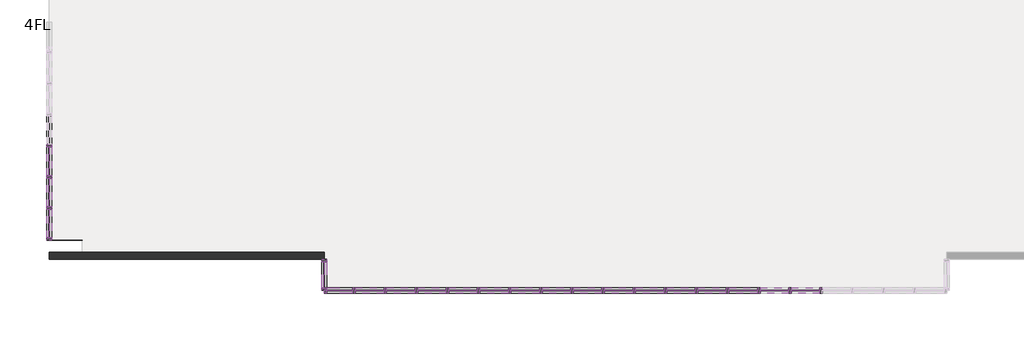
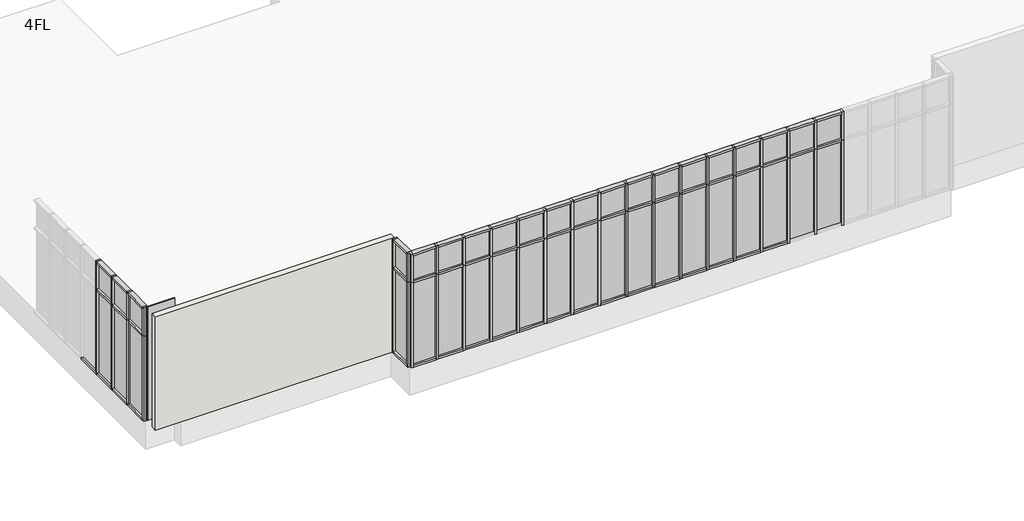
# One storey, part 1 of 4: 105 members, 42 plates, 1 wall.
"""IFC4 building model written with IfcOpenShell, lengths in millimetres."""

from ifc_helpers import new_model, si_unit, frame, origin, place, context, project, spatial, polyline, outline, extrude, transform, mapped, element, save
from components import member_70x150_cdd4dcf9, member_70x150_9a135ce4, member_70x150_66cf63de, member_70x150_26475b18, member_70x150_ad4265bc, member_70x150_e0eddb57, member_70x150_1b280ac3, member_70x150_76429c73, plate_d1366ea1, plate_ab860a3c, plate_28587fd3, plate_4b01b467, plate_396bcf3c, plate_83f08a3e

model = new_model("IFC4")

# Units and contexts
model_context = context("Model", 3, world=origin())
ifc_project = project(units=[si_unit("LENGTHUNIT", "METRE", prefix="MILLI")], contexts=[model_context])

# Site, building, storey
site = spatial("IfcSite", under=ifc_project)
building = spatial("IfcBuilding", under=site)
storey = spatial("IfcBuildingStorey", under=building, Name="4FL", Elevation=12600.0)

# Members
placement = place(None, origin())
member_70x150_shape = member_70x150_cdd4dcf9(model_context)
element("IfcMember", 1, ObjectType="長方形のマリオン : 70x150", at=placement, inside=storey, context=model_context, shape_type="MappedRepresentation", body=[
    mapped(member_70x150_shape, transform((-19630.9784025, -4550.3131013, 12600.0), x_axis=(-1.0, 0.0, 0.0), y_axis=(0.0, 1.0, 0.0), z_axis=(0.0, 0.0, -1.0))),
])
element("IfcMember", 2, ObjectType="長方形のマリオン : 70x150", at=placement, inside=storey, context=model_context, shape_type="MappedRepresentation", body=[
    mapped(member_70x150_shape, transform((-16030.9784025, -4550.3131013, 12600.0), x_axis=(-1.0, 0.0, 0.0), y_axis=(0.0, 1.0, 0.0), z_axis=(0.0, 0.0, -1.0))),
])
element("IfcMember", 3, ObjectType="長方形のマリオン : 70x150", at=placement, inside=storey, context=model_context, shape_type="MappedRepresentation", body=[
    mapped(member_70x150_shape, transform((-20530.9784025, -4550.3131013, 12600.0), x_axis=(-1.0, 0.0, 0.0), y_axis=(0.0, 1.0, 0.0), z_axis=(0.0, 0.0, -1.0))),
])
element("IfcMember", 4, ObjectType="長方形のマリオン : 70x150", at=placement, inside=storey, context=model_context, shape_type="MappedRepresentation", body=[
    mapped(member_70x150_shape, transform((-17830.9784025, -4550.3131013, 12600.0), x_axis=(-1.0, 0.0, 0.0), y_axis=(0.0, 1.0, 0.0), z_axis=(0.0, 0.0, -1.0))),
])
element("IfcMember", 5, ObjectType="長方形のマリオン : 70x150", at=placement, inside=storey, context=model_context, shape_type="MappedRepresentation", body=[
    mapped(member_70x150_shape, transform((-14230.9784025, -4550.3131013, 12600.0), x_axis=(-1.0, 0.0, 0.0), y_axis=(0.0, 1.0, 0.0), z_axis=(0.0, 0.0, -1.0))),
])
element("IfcMember", 6, ObjectType="長方形のマリオン : 70x150", at=placement, inside=storey, context=model_context, shape_type="MappedRepresentation", body=[
    mapped(member_70x150_shape, transform((-18730.9784025, -4550.3131013, 12600.0), x_axis=(-1.0, 0.0, 0.0), y_axis=(0.0, 1.0, 0.0), z_axis=(0.0, 0.0, -1.0))),
])
element("IfcMember", 7, ObjectType="長方形のマリオン : 70x150", at=placement, inside=storey, context=model_context, shape_type="MappedRepresentation", body=[
    mapped(member_70x150_shape, transform((-15130.9784025, -4550.3131013, 12600.0), x_axis=(-1.0, 0.0, 0.0), y_axis=(0.0, 1.0, 0.0), z_axis=(0.0, 0.0, -1.0))),
])
element("IfcMember", 8, ObjectType="長方形のマリオン : 70x150", at=placement, inside=storey, context=model_context, shape_type="MappedRepresentation", body=[
    mapped(member_70x150_shape, transform((-13330.9784025, -4550.3131013, 12600.0), x_axis=(-1.0, 0.0, 0.0), y_axis=(0.0, 1.0, 0.0), z_axis=(0.0, 0.0, -1.0))),
])
element("IfcMember", 9, ObjectType="長方形のマリオン : 70x150", at=placement, inside=storey, context=model_context, shape_type="MappedRepresentation", body=[
    mapped(member_70x150_shape, transform((-16930.9784025, -4550.3131013, 12600.0), x_axis=(-1.0, 0.0, 0.0), y_axis=(0.0, 1.0, 0.0), z_axis=(0.0, 0.0, -1.0))),
])
element("IfcMember", 10, ObjectType="長方形のマリオン : 70x150", at=placement, inside=storey, context=model_context, shape_type="MappedRepresentation", body=[
    mapped(member_70x150_shape, transform((-12430.9784025, -4550.3131013, 12600.0), x_axis=(-1.0, 0.0, 0.0), y_axis=(0.0, 1.0, 0.0), z_axis=(0.0, 0.0, -1.0))),
])
element("IfcMember", 11, ObjectType="長方形のマリオン : 70x150", at=placement, inside=storey, context=model_context, shape_type="MappedRepresentation", body=[
    mapped(member_70x150_shape, transform((-10630.9784025, -4550.3131013, 12600.0), x_axis=(-1.0, 0.0, 0.0), y_axis=(0.0, 1.0, 0.0), z_axis=(0.0, 0.0, -1.0))),
])
element("IfcMember", 12, ObjectType="長方形のマリオン : 70x150", at=placement, inside=storey, context=model_context, shape_type="MappedRepresentation", body=[
    mapped(member_70x150_shape, transform((-7930.9784025, -4550.3131013, 12600.0), x_axis=(-1.0, 0.0, 0.0), y_axis=(0.0, 1.0, 0.0), z_axis=(0.0, 0.0, -1.0))),
])
element("IfcMember", 13, ObjectType="長方形のマリオン : 70x150", at=placement, inside=storey, context=model_context, shape_type="MappedRepresentation", body=[
    mapped(member_70x150_shape, transform((-9730.9784025, -4550.3131013, 12600.0), x_axis=(-1.0, 0.0, 0.0), y_axis=(0.0, 1.0, 0.0), z_axis=(0.0, 0.0, -1.0))),
])
element("IfcMember", 14, ObjectType="長方形のマリオン : 70x150", at=placement, inside=storey, context=model_context, shape_type="MappedRepresentation", body=[
    mapped(member_70x150_shape, transform((-11530.9784025, -4550.3131013, 12600.0), x_axis=(-1.0, 0.0, 0.0), y_axis=(0.0, 1.0, 0.0), z_axis=(0.0, 0.0, -1.0))),
])
element("IfcMember", 15, ObjectType="長方形のマリオン : 70x150", at=placement, inside=storey, context=model_context, shape_type="MappedRepresentation", body=[
    mapped(member_70x150_shape, transform((-8830.9784025, -4550.3131013, 12600.0), x_axis=(-1.0, 0.0, 0.0), y_axis=(0.0, 1.0, 0.0), z_axis=(0.0, 0.0, -1.0))),
])
element("IfcMember", 16, ObjectType="長方形のマリオン : 70x150", at=placement, inside=storey, context=model_context, shape_type="MappedRepresentation", body=[
    mapped(member_70x150_shape, transform((-7030.9784025, -4550.3131013, 12600.0), x_axis=(-1.0, 0.0, 0.0), y_axis=(0.0, 1.0, 0.0), z_axis=(0.0, 0.0, -1.0))),
])
element("IfcMember", 17, ObjectType="長方形のマリオン : 70x150", at=placement, inside=storey, context=model_context, shape_type="MappedRepresentation", body=[
    mapped(member_70x150_shape, transform((-29345.9784025, -365.3131013, 12600.0), x_axis=(0.0, 1.0, 0.0), y_axis=(1.0, 0.0, 0.0), z_axis=(0.0, 0.0, -1.0))),
])
element("IfcMember", 18, ObjectType="長方形のマリオン : 70x150", at=placement, inside=storey, context=model_context, shape_type="MappedRepresentation", body=[
    mapped(member_70x150_shape, transform((-29345.9784025, -2165.3131013, 12600.0), x_axis=(0.0, 1.0, 0.0), y_axis=(1.0, 0.0, 0.0), z_axis=(0.0, 0.0, -1.0))),
])
element("IfcMember", 19, ObjectType="長方形のマリオン : 70x150", at=placement, inside=storey, context=model_context, shape_type="MappedRepresentation", body=[
    mapped(member_70x150_shape, transform((-29345.9784025, -1265.3131013, 12600.0), x_axis=(0.0, 1.0, 0.0), y_axis=(1.0, 0.0, 0.0), z_axis=(0.0, 0.0, -1.0))),
])
member_70x150_2_shape = member_70x150_9a135ce4(model_context)
element("IfcMember", 20, ObjectType="長方形のマリオン : 70x150", at=placement, inside=storey, context=model_context, shape_type="MappedRepresentation", body=[
    mapped(member_70x150_2_shape, transform((-21325.9784025, -4550.3131013, 16600.0), x_axis=(0.0, 0.0, 1.0), y_axis=(0.0, 1.0, 0.0), z_axis=(-1.0, 0.0, 0.0))),
])
element("IfcMember", 21, ObjectType="長方形のマリオン : 70x150", at=placement, inside=storey, context=model_context, shape_type="MappedRepresentation", body=[
    mapped(member_70x150_2_shape, transform((-21395.9784025, -3720.3131013, 16600.0), x_axis=(0.0, 0.0, 1.0), y_axis=(1.0, 0.0, 0.0), z_axis=(0.0, 1.0, 0.0))),
])
member_70x150_3_shape = member_70x150_66cf63de(model_context)
element("IfcMember", 22, ObjectType="長方形のマリオン : 70x150", at=placement, inside=storey, context=model_context, shape_type="MappedRepresentation", body=[
    mapped(member_70x150_3_shape, transform((-19665.9784025, -4550.3131013, 12600.0), x_axis=(0.0, 0.0, -1.0), y_axis=(0.0, 1.0, 0.0), z_axis=(1.0, 0.0, 0.0))),
])
element("IfcMember", 23, ObjectType="長方形のマリオン : 70x150", at=placement, inside=storey, context=model_context, shape_type="MappedRepresentation", body=[
    mapped(member_70x150_3_shape, transform((-18765.9784025, -4550.3131013, 12600.0), x_axis=(0.0, 0.0, -1.0), y_axis=(0.0, 1.0, 0.0), z_axis=(1.0, 0.0, 0.0))),
])
element("IfcMember", 24, ObjectType="長方形のマリオン : 70x150", at=placement, inside=storey, context=model_context, shape_type="MappedRepresentation", body=[
    mapped(member_70x150_3_shape, transform((-17865.9784025, -4550.3131013, 12600.0), x_axis=(0.0, 0.0, -1.0), y_axis=(0.0, 1.0, 0.0), z_axis=(1.0, 0.0, 0.0))),
])
element("IfcMember", 25, ObjectType="長方形のマリオン : 70x150", at=placement, inside=storey, context=model_context, shape_type="MappedRepresentation", body=[
    mapped(member_70x150_3_shape, transform((-16965.9784025, -4550.3131013, 12600.0), x_axis=(0.0, 0.0, -1.0), y_axis=(0.0, 1.0, 0.0), z_axis=(1.0, 0.0, 0.0))),
])
element("IfcMember", 26, ObjectType="長方形のマリオン : 70x150", at=placement, inside=storey, context=model_context, shape_type="MappedRepresentation", body=[
    mapped(member_70x150_3_shape, transform((-16065.9784025, -4550.3131013, 12600.0), x_axis=(0.0, 0.0, -1.0), y_axis=(0.0, 1.0, 0.0), z_axis=(1.0, 0.0, 0.0))),
])
element("IfcMember", 27, ObjectType="長方形のマリオン : 70x150", at=placement, inside=storey, context=model_context, shape_type="MappedRepresentation", body=[
    mapped(member_70x150_3_shape, transform((-11565.9784025, -4550.3131013, 12600.0), x_axis=(0.0, 0.0, -1.0), y_axis=(0.0, 1.0, 0.0), z_axis=(1.0, 0.0, 0.0))),
])
element("IfcMember", 28, ObjectType="長方形のマリオン : 70x150", at=placement, inside=storey, context=model_context, shape_type="MappedRepresentation", body=[
    mapped(member_70x150_3_shape, transform((-9765.9784025, -4550.3131013, 12600.0), x_axis=(0.0, 0.0, -1.0), y_axis=(0.0, 1.0, 0.0), z_axis=(1.0, 0.0, 0.0))),
])
element("IfcMember", 29, ObjectType="長方形のマリオン : 70x150", at=placement, inside=storey, context=model_context, shape_type="MappedRepresentation", body=[
    mapped(member_70x150_3_shape, transform((-13365.9784025, -4550.3131013, 12600.0), x_axis=(0.0, 0.0, -1.0), y_axis=(0.0, 1.0, 0.0), z_axis=(1.0, 0.0, 0.0))),
])
element("IfcMember", 30, ObjectType="長方形のマリオン : 70x150", at=placement, inside=storey, context=model_context, shape_type="MappedRepresentation", body=[
    mapped(member_70x150_3_shape, transform((-12465.9784025, -4550.3131013, 12600.0), x_axis=(0.0, 0.0, -1.0), y_axis=(0.0, 1.0, 0.0), z_axis=(1.0, 0.0, 0.0))),
])
element("IfcMember", 31, ObjectType="長方形のマリオン : 70x150", at=placement, inside=storey, context=model_context, shape_type="MappedRepresentation", body=[
    mapped(member_70x150_3_shape, transform((-14265.9784025, -4550.3131013, 12600.0), x_axis=(0.0, 0.0, -1.0), y_axis=(0.0, 1.0, 0.0), z_axis=(1.0, 0.0, 0.0))),
])
element("IfcMember", 32, ObjectType="長方形のマリオン : 70x150", at=placement, inside=storey, context=model_context, shape_type="MappedRepresentation", body=[
    mapped(member_70x150_3_shape, transform((-10665.9784025, -4550.3131013, 12600.0), x_axis=(0.0, 0.0, -1.0), y_axis=(0.0, 1.0, 0.0), z_axis=(1.0, 0.0, 0.0))),
])
element("IfcMember", 33, ObjectType="長方形のマリオン : 70x150", at=placement, inside=storey, context=model_context, shape_type="MappedRepresentation", body=[
    mapped(member_70x150_3_shape, transform((-15165.9784025, -4550.3131013, 12600.0), x_axis=(0.0, 0.0, -1.0), y_axis=(0.0, 1.0, 0.0), z_axis=(1.0, 0.0, 0.0))),
])
element("IfcMember", 34, ObjectType="長方形のマリオン : 70x150", at=placement, inside=storey, context=model_context, shape_type="MappedRepresentation", body=[
    mapped(member_70x150_3_shape, transform((-8865.9784025, -4550.3131013, 12600.0), x_axis=(0.0, 0.0, -1.0), y_axis=(0.0, 1.0, 0.0), z_axis=(1.0, 0.0, 0.0))),
])
element("IfcMember", 35, ObjectType="長方形のマリオン : 70x150", at=placement, inside=storey, context=model_context, shape_type="MappedRepresentation", body=[
    mapped(member_70x150_3_shape, transform((-29345.9784025, -330.3131013, 12600.0), x_axis=(0.0, 0.0, -1.0), y_axis=(1.0, 0.0, 0.0), z_axis=(0.0, -1.0, 0.0))),
])
element("IfcMember", 36, ObjectType="長方形のマリオン : 70x150", at=placement, inside=storey, context=model_context, shape_type="MappedRepresentation", body=[
    mapped(member_70x150_3_shape, transform((-29345.9784025, -1230.3131013, 12600.0), x_axis=(0.0, 0.0, -1.0), y_axis=(1.0, 0.0, 0.0), z_axis=(0.0, -1.0, 0.0))),
])
element("IfcMember", 37, ObjectType="長方形のマリオン : 70x150", at=placement, inside=storey, context=model_context, shape_type="MappedRepresentation", body=[
    mapped(member_70x150_3_shape, transform((-29345.9784025, -2130.3131013, 12600.0), x_axis=(0.0, 0.0, -1.0), y_axis=(1.0, 0.0, 0.0), z_axis=(0.0, -1.0, 0.0))),
])
element("IfcMember", 38, ObjectType="長方形のマリオン : 70x150", at=placement, inside=storey, context=model_context, shape_type="MappedRepresentation", body=[
    mapped(member_70x150_3_shape, transform((-29345.9784025, -3030.3131013, 12600.0), x_axis=(0.0, 0.0, -1.0), y_axis=(1.0, 0.0, 0.0), z_axis=(0.0, -1.0, 0.0))),
])
element("IfcMember", 39, ObjectType="長方形のマリオン : 70x150", at=placement, inside=storey, context=model_context, shape_type="MappedRepresentation", body=[
    mapped(member_70x150_3_shape, transform((-19595.9784025, -4550.3131013, 16600.0), x_axis=(0.0, 0.0, 1.0), y_axis=(0.0, 1.0, 0.0), z_axis=(-1.0, 0.0, 0.0))),
])
element("IfcMember", 40, ObjectType="長方形のマリオン : 70x150", at=placement, inside=storey, context=model_context, shape_type="MappedRepresentation", body=[
    mapped(member_70x150_3_shape, transform((-18695.9784025, -4550.3131013, 16600.0), x_axis=(0.0, 0.0, 1.0), y_axis=(0.0, 1.0, 0.0), z_axis=(-1.0, 0.0, 0.0))),
])
element("IfcMember", 41, ObjectType="長方形のマリオン : 70x150", at=placement, inside=storey, context=model_context, shape_type="MappedRepresentation", body=[
    mapped(member_70x150_3_shape, transform((-17795.9784025, -4550.3131013, 16600.0), x_axis=(0.0, 0.0, 1.0), y_axis=(0.0, 1.0, 0.0), z_axis=(-1.0, 0.0, 0.0))),
])
element("IfcMember", 42, ObjectType="長方形のマリオン : 70x150", at=placement, inside=storey, context=model_context, shape_type="MappedRepresentation", body=[
    mapped(member_70x150_3_shape, transform((-16895.9784025, -4550.3131013, 16600.0), x_axis=(0.0, 0.0, 1.0), y_axis=(0.0, 1.0, 0.0), z_axis=(-1.0, 0.0, 0.0))),
])
element("IfcMember", 43, ObjectType="長方形のマリオン : 70x150", at=placement, inside=storey, context=model_context, shape_type="MappedRepresentation", body=[
    mapped(member_70x150_3_shape, transform((-15995.9784025, -4550.3131013, 16600.0), x_axis=(0.0, 0.0, 1.0), y_axis=(0.0, 1.0, 0.0), z_axis=(-1.0, 0.0, 0.0))),
])
element("IfcMember", 44, ObjectType="長方形のマリオン : 70x150", at=placement, inside=storey, context=model_context, shape_type="MappedRepresentation", body=[
    mapped(member_70x150_3_shape, transform((-15095.9784025, -4550.3131013, 16600.0), x_axis=(0.0, 0.0, 1.0), y_axis=(0.0, 1.0, 0.0), z_axis=(-1.0, 0.0, 0.0))),
])
element("IfcMember", 45, ObjectType="長方形のマリオン : 70x150", at=placement, inside=storey, context=model_context, shape_type="MappedRepresentation", body=[
    mapped(member_70x150_3_shape, transform((-14195.9784025, -4550.3131013, 16600.0), x_axis=(0.0, 0.0, 1.0), y_axis=(0.0, 1.0, 0.0), z_axis=(-1.0, 0.0, 0.0))),
])
element("IfcMember", 46, ObjectType="長方形のマリオン : 70x150", at=placement, inside=storey, context=model_context, shape_type="MappedRepresentation", body=[
    mapped(member_70x150_3_shape, transform((-13295.9784025, -4550.3131013, 16600.0), x_axis=(0.0, 0.0, 1.0), y_axis=(0.0, 1.0, 0.0), z_axis=(-1.0, 0.0, 0.0))),
])
element("IfcMember", 47, ObjectType="長方形のマリオン : 70x150", at=placement, inside=storey, context=model_context, shape_type="MappedRepresentation", body=[
    mapped(member_70x150_3_shape, transform((-12395.9784025, -4550.3131013, 16600.0), x_axis=(0.0, 0.0, 1.0), y_axis=(0.0, 1.0, 0.0), z_axis=(-1.0, 0.0, 0.0))),
])
element("IfcMember", 48, ObjectType="長方形のマリオン : 70x150", at=placement, inside=storey, context=model_context, shape_type="MappedRepresentation", body=[
    mapped(member_70x150_3_shape, transform((-11495.9784025, -4550.3131013, 16600.0), x_axis=(0.0, 0.0, 1.0), y_axis=(0.0, 1.0, 0.0), z_axis=(-1.0, 0.0, 0.0))),
])
element("IfcMember", 49, ObjectType="長方形のマリオン : 70x150", at=placement, inside=storey, context=model_context, shape_type="MappedRepresentation", body=[
    mapped(member_70x150_3_shape, transform((-10595.9784025, -4550.3131013, 16600.0), x_axis=(0.0, 0.0, 1.0), y_axis=(0.0, 1.0, 0.0), z_axis=(-1.0, 0.0, 0.0))),
])
element("IfcMember", 50, ObjectType="長方形のマリオン : 70x150", at=placement, inside=storey, context=model_context, shape_type="MappedRepresentation", body=[
    mapped(member_70x150_3_shape, transform((-9695.9784025, -4550.3131013, 16600.0), x_axis=(0.0, 0.0, 1.0), y_axis=(0.0, 1.0, 0.0), z_axis=(-1.0, 0.0, 0.0))),
])
element("IfcMember", 51, ObjectType="長方形のマリオン : 70x150", at=placement, inside=storey, context=model_context, shape_type="MappedRepresentation", body=[
    mapped(member_70x150_3_shape, transform((-8795.9784025, -4550.3131013, 16600.0), x_axis=(0.0, 0.0, 1.0), y_axis=(0.0, 1.0, 0.0), z_axis=(-1.0, 0.0, 0.0))),
])
element("IfcMember", 52, ObjectType="長方形のマリオン : 70x150", at=placement, inside=storey, context=model_context, shape_type="MappedRepresentation", body=[
    mapped(member_70x150_3_shape, transform((-7895.9784025, -4550.3131013, 16600.0), x_axis=(0.0, 0.0, 1.0), y_axis=(0.0, 1.0, 0.0), z_axis=(-1.0, 0.0, 0.0))),
])
element("IfcMember", 53, ObjectType="長方形のマリオン : 70x150", at=placement, inside=storey, context=model_context, shape_type="MappedRepresentation", body=[
    mapped(member_70x150_3_shape, transform((-20495.9784025, -4550.3131013, 16600.0), x_axis=(0.0, 0.0, 1.0), y_axis=(0.0, 1.0, 0.0), z_axis=(-1.0, 0.0, 0.0))),
])
element("IfcMember", 54, ObjectType="長方形のマリオン : 70x150", at=placement, inside=storey, context=model_context, shape_type="MappedRepresentation", body=[
    mapped(member_70x150_3_shape, transform((-29345.9784025, -400.3131013, 16600.0), x_axis=(0.0, 0.0, 1.0), y_axis=(1.0, 0.0, 0.0), z_axis=(0.0, 1.0, 0.0))),
])
element("IfcMember", 55, ObjectType="長方形のマリオン : 70x150", at=placement, inside=storey, context=model_context, shape_type="MappedRepresentation", body=[
    mapped(member_70x150_3_shape, transform((-29345.9784025, -1300.3131013, 16600.0), x_axis=(0.0, 0.0, 1.0), y_axis=(1.0, 0.0, 0.0), z_axis=(0.0, 1.0, 0.0))),
])
element("IfcMember", 56, ObjectType="長方形のマリオン : 70x150", at=placement, inside=storey, context=model_context, shape_type="MappedRepresentation", body=[
    mapped(member_70x150_3_shape, transform((-29345.9784025, -2200.3131013, 16600.0), x_axis=(0.0, 0.0, 1.0), y_axis=(1.0, 0.0, 0.0), z_axis=(0.0, 1.0, 0.0))),
])
element("IfcMember", 57, ObjectType="長方形のマリオン : 70x150", at=placement, inside=storey, context=model_context, shape_type="MappedRepresentation", body=[
    mapped(member_70x150_2_shape, transform((-20565.9784025, -4550.3131013, 12600.0), x_axis=(0.0, 0.0, -1.0), y_axis=(0.0, 1.0, 0.0), z_axis=(1.0, 0.0, 0.0))),
])
element("IfcMember", 58, ObjectType="長方形のマリオン : 70x150", at=placement, inside=storey, context=model_context, shape_type="MappedRepresentation", body=[
    mapped(member_70x150_2_shape, transform((-21395.9784025, -4480.3131013, 12600.0), x_axis=(0.0, 0.0, -1.0), y_axis=(1.0, 0.0, 0.0), z_axis=(0.0, -1.0, 0.0))),
])
member_70x150_4_shape = member_70x150_26475b18(model_context)
element("IfcMember", 59, ObjectType="長方形のマリオン : 70x150", at=placement, inside=storey, context=model_context, shape_type="MappedRepresentation", body=[
    mapped(member_70x150_4_shape, transform((-20530.9784025, -4550.3131013, 15600.0), x_axis=(-1.0, 0.0, 0.0), y_axis=(0.0, 1.0, 0.0), z_axis=(0.0, 0.0, -1.0))),
])
element("IfcMember", 60, ObjectType="長方形のマリオン : 70x150", at=placement, inside=storey, context=model_context, shape_type="MappedRepresentation", body=[
    mapped(member_70x150_4_shape, transform((-19630.9784025, -4550.3131013, 15600.0), x_axis=(-1.0, 0.0, 0.0), y_axis=(0.0, 1.0, 0.0), z_axis=(0.0, 0.0, -1.0))),
])
element("IfcMember", 61, ObjectType="長方形のマリオン : 70x150", at=placement, inside=storey, context=model_context, shape_type="MappedRepresentation", body=[
    mapped(member_70x150_4_shape, transform((-18730.9784025, -4550.3131013, 15600.0), x_axis=(-1.0, 0.0, 0.0), y_axis=(0.0, 1.0, 0.0), z_axis=(0.0, 0.0, -1.0))),
])
element("IfcMember", 62, ObjectType="長方形のマリオン : 70x150", at=placement, inside=storey, context=model_context, shape_type="MappedRepresentation", body=[
    mapped(member_70x150_4_shape, transform((-17830.9784025, -4550.3131013, 15600.0), x_axis=(-1.0, 0.0, 0.0), y_axis=(0.0, 1.0, 0.0), z_axis=(0.0, 0.0, -1.0))),
])
element("IfcMember", 63, ObjectType="長方形のマリオン : 70x150", at=placement, inside=storey, context=model_context, shape_type="MappedRepresentation", body=[
    mapped(member_70x150_4_shape, transform((-16930.9784025, -4550.3131013, 15600.0), x_axis=(-1.0, 0.0, 0.0), y_axis=(0.0, 1.0, 0.0), z_axis=(0.0, 0.0, -1.0))),
])
element("IfcMember", 64, ObjectType="長方形のマリオン : 70x150", at=placement, inside=storey, context=model_context, shape_type="MappedRepresentation", body=[
    mapped(member_70x150_4_shape, transform((-16030.9784025, -4550.3131013, 15600.0), x_axis=(-1.0, 0.0, 0.0), y_axis=(0.0, 1.0, 0.0), z_axis=(0.0, 0.0, -1.0))),
])
element("IfcMember", 65, ObjectType="長方形のマリオン : 70x150", at=placement, inside=storey, context=model_context, shape_type="MappedRepresentation", body=[
    mapped(member_70x150_4_shape, transform((-15130.9784025, -4550.3131013, 15600.0), x_axis=(-1.0, 0.0, 0.0), y_axis=(0.0, 1.0, 0.0), z_axis=(0.0, 0.0, -1.0))),
])
element("IfcMember", 66, ObjectType="長方形のマリオン : 70x150", at=placement, inside=storey, context=model_context, shape_type="MappedRepresentation", body=[
    mapped(member_70x150_4_shape, transform((-14230.9784025, -4550.3131013, 15600.0), x_axis=(-1.0, 0.0, 0.0), y_axis=(0.0, 1.0, 0.0), z_axis=(0.0, 0.0, -1.0))),
])
element("IfcMember", 67, ObjectType="長方形のマリオン : 70x150", at=placement, inside=storey, context=model_context, shape_type="MappedRepresentation", body=[
    mapped(member_70x150_4_shape, transform((-13330.9784025, -4550.3131013, 15600.0), x_axis=(-1.0, 0.0, 0.0), y_axis=(0.0, 1.0, 0.0), z_axis=(0.0, 0.0, -1.0))),
])
element("IfcMember", 68, ObjectType="長方形のマリオン : 70x150", at=placement, inside=storey, context=model_context, shape_type="MappedRepresentation", body=[
    mapped(member_70x150_4_shape, transform((-12430.9784025, -4550.3131013, 15600.0), x_axis=(-1.0, 0.0, 0.0), y_axis=(0.0, 1.0, 0.0), z_axis=(0.0, 0.0, -1.0))),
])
element("IfcMember", 69, ObjectType="長方形のマリオン : 70x150", at=placement, inside=storey, context=model_context, shape_type="MappedRepresentation", body=[
    mapped(member_70x150_4_shape, transform((-11530.9784025, -4550.3131013, 15600.0), x_axis=(-1.0, 0.0, 0.0), y_axis=(0.0, 1.0, 0.0), z_axis=(0.0, 0.0, -1.0))),
])
element("IfcMember", 70, ObjectType="長方形のマリオン : 70x150", at=placement, inside=storey, context=model_context, shape_type="MappedRepresentation", body=[
    mapped(member_70x150_4_shape, transform((-10630.9784025, -4550.3131013, 15600.0), x_axis=(-1.0, 0.0, 0.0), y_axis=(0.0, 1.0, 0.0), z_axis=(0.0, 0.0, -1.0))),
])
element("IfcMember", 71, ObjectType="長方形のマリオン : 70x150", at=placement, inside=storey, context=model_context, shape_type="MappedRepresentation", body=[
    mapped(member_70x150_4_shape, transform((-9730.9784025, -4550.3131013, 15600.0), x_axis=(-1.0, 0.0, 0.0), y_axis=(0.0, 1.0, 0.0), z_axis=(0.0, 0.0, -1.0))),
])
element("IfcMember", 72, ObjectType="長方形のマリオン : 70x150", at=placement, inside=storey, context=model_context, shape_type="MappedRepresentation", body=[
    mapped(member_70x150_4_shape, transform((-8830.9784025, -4550.3131013, 15600.0), x_axis=(-1.0, 0.0, 0.0), y_axis=(0.0, 1.0, 0.0), z_axis=(0.0, 0.0, -1.0))),
])
element("IfcMember", 73, ObjectType="長方形のマリオン : 70x150", at=placement, inside=storey, context=model_context, shape_type="MappedRepresentation", body=[
    mapped(member_70x150_4_shape, transform((-7930.9784025, -4550.3131013, 15600.0), x_axis=(-1.0, 0.0, 0.0), y_axis=(0.0, 1.0, 0.0), z_axis=(0.0, 0.0, -1.0))),
])
element("IfcMember", 74, ObjectType="長方形のマリオン : 70x150", at=placement, inside=storey, context=model_context, shape_type="MappedRepresentation", body=[
    mapped(member_70x150_4_shape, transform((-7030.9784025, -4550.3131013, 15600.0), x_axis=(-1.0, 0.0, 0.0), y_axis=(0.0, 1.0, 0.0), z_axis=(0.0, 0.0, -1.0))),
])
element("IfcMember", 75, ObjectType="長方形のマリオン : 70x150", at=placement, inside=storey, context=model_context, shape_type="MappedRepresentation", body=[
    mapped(member_70x150_4_shape, transform((-29345.9784025, -365.3131013, 15600.0), x_axis=(0.0, 1.0, 0.0), y_axis=(1.0, 0.0, 0.0), z_axis=(0.0, 0.0, -1.0))),
])
element("IfcMember", 76, ObjectType="長方形のマリオン : 70x150", at=placement, inside=storey, context=model_context, shape_type="MappedRepresentation", body=[
    mapped(member_70x150_4_shape, transform((-29345.9784025, -2165.3131013, 15600.0), x_axis=(0.0, 1.0, 0.0), y_axis=(1.0, 0.0, 0.0), z_axis=(0.0, 0.0, -1.0))),
])
element("IfcMember", 77, ObjectType="長方形のマリオン : 70x150", at=placement, inside=storey, context=model_context, shape_type="MappedRepresentation", body=[
    mapped(member_70x150_4_shape, transform((-29345.9784025, -1265.3131013, 15600.0), x_axis=(0.0, 1.0, 0.0), y_axis=(1.0, 0.0, 0.0), z_axis=(0.0, 0.0, -1.0))),
])
member_70x150_5_shape = member_70x150_ad4265bc(model_context)
element("IfcMember", 78, ObjectType="長方形のマリオン : 70x150", at=placement, inside=storey, context=model_context, shape_type="MappedRepresentation", body=[
    mapped(member_70x150_5_shape, transform((-17795.9784025, -4550.3131013, 15600.0), x_axis=(0.0, 0.0, 1.0), y_axis=(0.0, 1.0, 0.0), z_axis=(-1.0, 0.0, 0.0))),
])
element("IfcMember", 79, ObjectType="長方形のマリオン : 70x150", at=placement, inside=storey, context=model_context, shape_type="MappedRepresentation", body=[
    mapped(member_70x150_5_shape, transform((-13295.9784025, -4550.3131013, 15600.0), x_axis=(0.0, 0.0, 1.0), y_axis=(0.0, 1.0, 0.0), z_axis=(-1.0, 0.0, 0.0))),
])
element("IfcMember", 80, ObjectType="長方形のマリオン : 70x150", at=placement, inside=storey, context=model_context, shape_type="MappedRepresentation", body=[
    mapped(member_70x150_5_shape, transform((-12395.9784025, -4550.3131013, 15600.0), x_axis=(0.0, 0.0, 1.0), y_axis=(0.0, 1.0, 0.0), z_axis=(-1.0, 0.0, 0.0))),
])
element("IfcMember", 81, ObjectType="長方形のマリオン : 70x150", at=placement, inside=storey, context=model_context, shape_type="MappedRepresentation", body=[
    mapped(member_70x150_5_shape, transform((-9695.9784025, -4550.3131013, 15600.0), x_axis=(0.0, 0.0, 1.0), y_axis=(0.0, 1.0, 0.0), z_axis=(-1.0, 0.0, 0.0))),
])
element("IfcMember", 82, ObjectType="長方形のマリオン : 70x150", at=placement, inside=storey, context=model_context, shape_type="MappedRepresentation", body=[
    mapped(member_70x150_5_shape, transform((-15995.9784025, -4550.3131013, 15600.0), x_axis=(0.0, 0.0, 1.0), y_axis=(0.0, 1.0, 0.0), z_axis=(-1.0, 0.0, 0.0))),
])
element("IfcMember", 83, ObjectType="長方形のマリオン : 70x150", at=placement, inside=storey, context=model_context, shape_type="MappedRepresentation", body=[
    mapped(member_70x150_5_shape, transform((-15095.9784025, -4550.3131013, 15600.0), x_axis=(0.0, 0.0, 1.0), y_axis=(0.0, 1.0, 0.0), z_axis=(-1.0, 0.0, 0.0))),
])
element("IfcMember", 84, ObjectType="長方形のマリオン : 70x150", at=placement, inside=storey, context=model_context, shape_type="MappedRepresentation", body=[
    mapped(member_70x150_5_shape, transform((-16895.9784025, -4550.3131013, 15600.0), x_axis=(0.0, 0.0, 1.0), y_axis=(0.0, 1.0, 0.0), z_axis=(-1.0, 0.0, 0.0))),
])
element("IfcMember", 85, ObjectType="長方形のマリオン : 70x150", at=placement, inside=storey, context=model_context, shape_type="MappedRepresentation", body=[
    mapped(member_70x150_5_shape, transform((-8795.9784025, -4550.3131013, 15600.0), x_axis=(0.0, 0.0, 1.0), y_axis=(0.0, 1.0, 0.0), z_axis=(-1.0, 0.0, 0.0))),
])
element("IfcMember", 86, ObjectType="長方形のマリオン : 70x150", at=placement, inside=storey, context=model_context, shape_type="MappedRepresentation", body=[
    mapped(member_70x150_5_shape, transform((-11495.9784025, -4550.3131013, 15600.0), x_axis=(0.0, 0.0, 1.0), y_axis=(0.0, 1.0, 0.0), z_axis=(-1.0, 0.0, 0.0))),
])
element("IfcMember", 87, ObjectType="長方形のマリオン : 70x150", at=placement, inside=storey, context=model_context, shape_type="MappedRepresentation", body=[
    mapped(member_70x150_5_shape, transform((-14195.9784025, -4550.3131013, 15600.0), x_axis=(0.0, 0.0, 1.0), y_axis=(0.0, 1.0, 0.0), z_axis=(-1.0, 0.0, 0.0))),
])
element("IfcMember", 88, ObjectType="長方形のマリオン : 70x150", at=placement, inside=storey, context=model_context, shape_type="MappedRepresentation", body=[
    mapped(member_70x150_5_shape, transform((-7895.9784025, -4550.3131013, 15600.0), x_axis=(0.0, 0.0, 1.0), y_axis=(0.0, 1.0, 0.0), z_axis=(-1.0, 0.0, 0.0))),
])
element("IfcMember", 89, ObjectType="長方形のマリオン : 70x150", at=placement, inside=storey, context=model_context, shape_type="MappedRepresentation", body=[
    mapped(member_70x150_5_shape, transform((-19595.9784025, -4550.3131013, 15600.0), x_axis=(0.0, 0.0, 1.0), y_axis=(0.0, 1.0, 0.0), z_axis=(-1.0, 0.0, 0.0))),
])
element("IfcMember", 90, ObjectType="長方形のマリオン : 70x150", at=placement, inside=storey, context=model_context, shape_type="MappedRepresentation", body=[
    mapped(member_70x150_5_shape, transform((-18695.9784025, -4550.3131013, 15600.0), x_axis=(0.0, 0.0, 1.0), y_axis=(0.0, 1.0, 0.0), z_axis=(-1.0, 0.0, 0.0))),
])
element("IfcMember", 91, ObjectType="長方形のマリオン : 70x150", at=placement, inside=storey, context=model_context, shape_type="MappedRepresentation", body=[
    mapped(member_70x150_5_shape, transform((-10595.9784025, -4550.3131013, 15600.0), x_axis=(0.0, 0.0, 1.0), y_axis=(0.0, 1.0, 0.0), z_axis=(-1.0, 0.0, 0.0))),
])
element("IfcMember", 92, ObjectType="長方形のマリオン : 70x150", at=placement, inside=storey, context=model_context, shape_type="MappedRepresentation", body=[
    mapped(member_70x150_5_shape, transform((-20495.9784025, -4550.3131013, 15600.0), x_axis=(0.0, 0.0, 1.0), y_axis=(0.0, 1.0, 0.0), z_axis=(-1.0, 0.0, 0.0))),
])
element("IfcMember", 93, ObjectType="長方形のマリオン : 70x150", at=placement, inside=storey, context=model_context, shape_type="MappedRepresentation", body=[
    mapped(member_70x150_5_shape, transform((-29345.9784025, -2200.3131013, 15600.0), x_axis=(0.0, 0.0, 1.0), y_axis=(1.0, 0.0, 0.0), z_axis=(0.0, 1.0, 0.0))),
])
element("IfcMember", 94, ObjectType="長方形のマリオン : 70x150", at=placement, inside=storey, context=model_context, shape_type="MappedRepresentation", body=[
    mapped(member_70x150_5_shape, transform((-29345.9784025, -400.3131013, 15600.0), x_axis=(0.0, 0.0, 1.0), y_axis=(1.0, 0.0, 0.0), z_axis=(0.0, 1.0, 0.0))),
])
element("IfcMember", 95, ObjectType="長方形のマリオン : 70x150", at=placement, inside=storey, context=model_context, shape_type="MappedRepresentation", body=[
    mapped(member_70x150_5_shape, transform((-29345.9784025, -1300.3131013, 15600.0), x_axis=(0.0, 0.0, 1.0), y_axis=(1.0, 0.0, 0.0), z_axis=(0.0, 1.0, 0.0))),
])
member_70x150_6_shape = member_70x150_e0eddb57(model_context)
element("IfcMember", 96, ObjectType="長方形のマリオン : 70x150", at=placement, inside=storey, context=model_context, shape_type="MappedRepresentation", body=[
    mapped(member_70x150_6_shape, transform((-21325.9784025, -4550.3131013, 15600.0), x_axis=(0.0, 0.0, 1.0), y_axis=(0.0, 1.0, 0.0), z_axis=(-1.0, 0.0, 0.0))),
])
element("IfcMember", 97, ObjectType="長方形のマリオン : 70x150", at=placement, inside=storey, context=model_context, shape_type="MappedRepresentation", body=[
    mapped(member_70x150_6_shape, transform((-21395.9784025, -3720.3131013, 15600.0), x_axis=(0.0, 0.0, 1.0), y_axis=(1.0, 0.0, 0.0), z_axis=(0.0, 1.0, 0.0))),
])
member_70x150_7_shape = member_70x150_1b280ac3(model_context)
element("IfcMember", 98, ObjectType="長方形のマリオン : 70x150", at=placement, inside=storey, context=model_context, shape_type="MappedRepresentation", body=[
    mapped(member_70x150_7_shape, transform((-21395.9784025, -4550.3131013, 12600.0), x_axis=(-1.0, 0.0, 0.0), y_axis=(0.0, 1.0, 0.0), z_axis=(0.0, 0.0, -1.0))),
])
element("IfcMember", 99, ObjectType="長方形のマリオン : 70x150", at=placement, inside=storey, context=model_context, shape_type="MappedRepresentation", body=[
    mapped(member_70x150_7_shape, transform((-21395.9784025, -3650.3131013, 12600.0), x_axis=(0.0, 1.0, 0.0), y_axis=(1.0, 0.0, 0.0), z_axis=(0.0, 0.0, -1.0))),
])
member_70x150_8_shape = member_70x150_76429c73(model_context)
element("IfcMember", 100, ObjectType="長方形のマリオン : 70x150", at=placement, inside=storey, context=model_context, shape_type="MappedRepresentation", body=[
    mapped(member_70x150_8_shape, transform((-29345.9784025, -3100.3131013, 16600.0), x_axis=(0.0, -1.0, 0.0), y_axis=(1.0, 0.0, 0.0), z_axis=(0.0, 0.0, 1.0))),
])
element("IfcMember", 101, ObjectType="長方形のマリオン : 70x150", at=placement, inside=storey, context=model_context, shape_type="MappedRepresentation", body=[
    mapped(member_70x150_8_shape, transform((-21395.9784025, -4550.3131013, 16600.0), x_axis=(0.0, -1.0, 0.0), y_axis=(1.0, 0.0, 0.0), z_axis=(0.0, 0.0, 1.0))),
])
element("IfcMember", 102, ObjectType="長方形のマリオン : 70x150", at=placement, inside=storey, context=model_context, shape_type="MappedRepresentation", body=[
    mapped(member_70x150_8_shape, transform((-21395.9784025, -4550.3131013, 15600.0), x_axis=(-1.0, 0.0, 0.0), y_axis=(0.0, 1.0, 0.0), z_axis=(0.0, 0.0, -1.0))),
])
element("IfcMember", 103, ObjectType="長方形のマリオン : 70x150", at=placement, inside=storey, context=model_context, shape_type="MappedRepresentation", body=[
    mapped(member_70x150_8_shape, transform((-21395.9784025, -3650.3131013, 15600.0), x_axis=(0.0, 1.0, 0.0), y_axis=(1.0, 0.0, 0.0), z_axis=(0.0, 0.0, -1.0))),
])
element("IfcMember", 104, ObjectType="長方形のマリオン : 70x150", at=placement, inside=storey, context=model_context, shape_type="MappedRepresentation", body=[
    mapped(member_70x150_7_shape, transform((-29345.9784025, -3100.3131013, 15600.0), x_axis=(0.0, -1.0, 0.0), y_axis=(1.0, 0.0, 0.0), z_axis=(0.0, 0.0, 1.0))),
])
element("IfcMember", 105, ObjectType="長方形のマリオン : 70x150", at=placement, inside=storey, context=model_context, shape_type="MappedRepresentation", body=[
    mapped(member_70x150_7_shape, transform((-21395.9784025, -4550.3131013, 15600.0), x_axis=(0.0, -1.0, 0.0), y_axis=(1.0, 0.0, 0.0), z_axis=(0.0, 0.0, 1.0))),
])

# Plates
plate_shape = plate_d1366ea1(model_context)
element("IfcPlate", 106, ObjectType="システム パネル : 標準", at=placement, inside=storey, context=model_context, shape_type="MappedRepresentation", body=[
    mapped(plate_shape, transform((-28845.9784025, -3100.3131013, 12600.0), x_axis=(-1.0, 0.0, 0.0), y_axis=(0.0, -1.0, 0.0), z_axis=(0.0, 0.0, 1.0))),
])
plate_2_shape = plate_ab860a3c(model_context)
element("IfcPlate", 107, ObjectType="システム パネル : 標準", at=placement, inside=storey, context=model_context, shape_type="MappedRepresentation", body=[
    mapped(plate_2_shape, transform((-29320.9784025, -3100.3131013, 12600.0), x_axis=(-1.0, 0.0, 0.0), y_axis=(0.0, -1.0, 0.0), z_axis=(0.0, 0.0, 1.0))),
])
plate_3_shape = plate_28587fd3(model_context)
element("IfcPlate", 108, ObjectType="システム パネル : 標準", at=placement, inside=storey, context=model_context, shape_type="MappedRepresentation", body=[
    mapped(plate_3_shape, transform((-29345.9784025, -2615.3131013, 12670.0), x_axis=(0.0, 1.0, 0.0), y_axis=(-1.0, 0.0, 0.0), z_axis=(0.0, 0.0, 1.0))),
])
element("IfcPlate", 109, ObjectType="システム パネル : 標準", at=placement, inside=storey, context=model_context, shape_type="MappedRepresentation", body=[
    mapped(plate_3_shape, transform((-29345.9784025, -1715.3131013, 12670.0), x_axis=(0.0, 1.0, 0.0), y_axis=(-1.0, 0.0, 0.0), z_axis=(0.0, 0.0, 1.0))),
])
element("IfcPlate", 110, ObjectType="システム パネル : 標準", at=placement, inside=storey, context=model_context, shape_type="MappedRepresentation", body=[
    mapped(plate_3_shape, transform((-29345.9784025, -815.3131013, 12670.0), x_axis=(0.0, 1.0, 0.0), y_axis=(-1.0, 0.0, 0.0), z_axis=(0.0, 0.0, 1.0))),
])
element("IfcPlate", 111, ObjectType="システム パネル : 標準", at=placement, inside=storey, context=model_context, shape_type="MappedRepresentation", body=[
    mapped(plate_3_shape, transform((-7480.9784025, -4550.3131013, 12670.0), x_axis=(-1.0, 0.0, 0.0), y_axis=(0.0, -1.0, 0.0), z_axis=(0.0, 0.0, 1.0))),
])
element("IfcPlate", 112, ObjectType="システム パネル : 標準", at=placement, inside=storey, context=model_context, shape_type="MappedRepresentation", body=[
    mapped(plate_3_shape, transform((-8380.9784025, -4550.3131013, 12670.0), x_axis=(-1.0, 0.0, 0.0), y_axis=(0.0, -1.0, 0.0), z_axis=(0.0, 0.0, 1.0))),
])
element("IfcPlate", 113, ObjectType="システム パネル : 標準", at=placement, inside=storey, context=model_context, shape_type="MappedRepresentation", body=[
    mapped(plate_3_shape, transform((-9280.9784025, -4550.3131013, 12670.0), x_axis=(-1.0, 0.0, 0.0), y_axis=(0.0, -1.0, 0.0), z_axis=(0.0, 0.0, 1.0))),
])
element("IfcPlate", 114, ObjectType="システム パネル : 標準", at=placement, inside=storey, context=model_context, shape_type="MappedRepresentation", body=[
    mapped(plate_3_shape, transform((-10180.9784025, -4550.3131013, 12670.0), x_axis=(-1.0, 0.0, 0.0), y_axis=(0.0, -1.0, 0.0), z_axis=(0.0, 0.0, 1.0))),
])
element("IfcPlate", 115, ObjectType="システム パネル : 標準", at=placement, inside=storey, context=model_context, shape_type="MappedRepresentation", body=[
    mapped(plate_3_shape, transform((-11080.9784025, -4550.3131013, 12670.0), x_axis=(-1.0, 0.0, 0.0), y_axis=(0.0, -1.0, 0.0), z_axis=(0.0, 0.0, 1.0))),
])
element("IfcPlate", 116, ObjectType="システム パネル : 標準", at=placement, inside=storey, context=model_context, shape_type="MappedRepresentation", body=[
    mapped(plate_3_shape, transform((-11980.9784025, -4550.3131013, 12670.0), x_axis=(-1.0, 0.0, 0.0), y_axis=(0.0, -1.0, 0.0), z_axis=(0.0, 0.0, 1.0))),
])
element("IfcPlate", 117, ObjectType="システム パネル : 標準", at=placement, inside=storey, context=model_context, shape_type="MappedRepresentation", body=[
    mapped(plate_3_shape, transform((-12880.9784025, -4550.3131013, 12670.0), x_axis=(-1.0, 0.0, 0.0), y_axis=(0.0, -1.0, 0.0), z_axis=(0.0, 0.0, 1.0))),
])
element("IfcPlate", 118, ObjectType="システム パネル : 標準", at=placement, inside=storey, context=model_context, shape_type="MappedRepresentation", body=[
    mapped(plate_3_shape, transform((-13780.9784025, -4550.3131013, 12670.0), x_axis=(-1.0, 0.0, 0.0), y_axis=(0.0, -1.0, 0.0), z_axis=(0.0, 0.0, 1.0))),
])
element("IfcPlate", 119, ObjectType="システム パネル : 標準", at=placement, inside=storey, context=model_context, shape_type="MappedRepresentation", body=[
    mapped(plate_3_shape, transform((-14680.9784025, -4550.3131013, 12670.0), x_axis=(-1.0, 0.0, 0.0), y_axis=(0.0, -1.0, 0.0), z_axis=(0.0, 0.0, 1.0))),
])
element("IfcPlate", 120, ObjectType="システム パネル : 標準", at=placement, inside=storey, context=model_context, shape_type="MappedRepresentation", body=[
    mapped(plate_3_shape, transform((-15580.9784025, -4550.3131013, 12670.0), x_axis=(-1.0, 0.0, 0.0), y_axis=(0.0, -1.0, 0.0), z_axis=(0.0, 0.0, 1.0))),
])
element("IfcPlate", 121, ObjectType="システム パネル : 標準", at=placement, inside=storey, context=model_context, shape_type="MappedRepresentation", body=[
    mapped(plate_3_shape, transform((-16480.9784025, -4550.3131013, 12670.0), x_axis=(-1.0, 0.0, 0.0), y_axis=(0.0, -1.0, 0.0), z_axis=(0.0, 0.0, 1.0))),
])
element("IfcPlate", 122, ObjectType="システム パネル : 標準", at=placement, inside=storey, context=model_context, shape_type="MappedRepresentation", body=[
    mapped(plate_3_shape, transform((-17380.9784025, -4550.3131013, 12670.0), x_axis=(-1.0, 0.0, 0.0), y_axis=(0.0, -1.0, 0.0), z_axis=(0.0, 0.0, 1.0))),
])
element("IfcPlate", 123, ObjectType="システム パネル : 標準", at=placement, inside=storey, context=model_context, shape_type="MappedRepresentation", body=[
    mapped(plate_3_shape, transform((-18280.9784025, -4550.3131013, 12670.0), x_axis=(-1.0, 0.0, 0.0), y_axis=(0.0, -1.0, 0.0), z_axis=(0.0, 0.0, 1.0))),
])
element("IfcPlate", 124, ObjectType="システム パネル : 標準", at=placement, inside=storey, context=model_context, shape_type="MappedRepresentation", body=[
    mapped(plate_3_shape, transform((-19180.9784025, -4550.3131013, 12670.0), x_axis=(-1.0, 0.0, 0.0), y_axis=(0.0, -1.0, 0.0), z_axis=(0.0, 0.0, 1.0))),
])
element("IfcPlate", 125, ObjectType="システム パネル : 標準", at=placement, inside=storey, context=model_context, shape_type="MappedRepresentation", body=[
    mapped(plate_3_shape, transform((-20080.9784025, -4550.3131013, 12670.0), x_axis=(-1.0, 0.0, 0.0), y_axis=(0.0, -1.0, 0.0), z_axis=(0.0, 0.0, 1.0))),
])
plate_4_shape = plate_4b01b467(model_context)
element("IfcPlate", 126, ObjectType="システム パネル : 標準", at=placement, inside=storey, context=model_context, shape_type="MappedRepresentation", body=[
    mapped(plate_4_shape, transform((-20945.9784025, -4550.3131013, 12670.0), x_axis=(-1.0, 0.0, 0.0), y_axis=(0.0, -1.0, 0.0), z_axis=(0.0, 0.0, 1.0))),
])
element("IfcPlate", 127, ObjectType="システム パネル : 標準", at=placement, inside=storey, context=model_context, shape_type="MappedRepresentation", body=[
    mapped(plate_4_shape, transform((-21395.9784025, -4100.3131013, 12670.0), x_axis=(0.0, 1.0, 0.0), y_axis=(-1.0, 0.0, 0.0), z_axis=(0.0, 0.0, 1.0))),
])
plate_5_shape = plate_396bcf3c(model_context)
element("IfcPlate", 128, ObjectType="システム パネル : 標準", at=placement, inside=storey, context=model_context, shape_type="MappedRepresentation", body=[
    mapped(plate_5_shape, transform((-7480.9784025, -4550.3131013, 15635.0), x_axis=(-1.0, 0.0, 0.0), y_axis=(0.0, -1.0, 0.0), z_axis=(0.0, 0.0, 1.0))),
])
element("IfcPlate", 129, ObjectType="システム パネル : 標準", at=placement, inside=storey, context=model_context, shape_type="MappedRepresentation", body=[
    mapped(plate_5_shape, transform((-8380.9784025, -4550.3131013, 15635.0), x_axis=(-1.0, 0.0, 0.0), y_axis=(0.0, -1.0, 0.0), z_axis=(0.0, 0.0, 1.0))),
])
element("IfcPlate", 130, ObjectType="システム パネル : 標準", at=placement, inside=storey, context=model_context, shape_type="MappedRepresentation", body=[
    mapped(plate_5_shape, transform((-9280.9784025, -4550.3131013, 15635.0), x_axis=(-1.0, 0.0, 0.0), y_axis=(0.0, -1.0, 0.0), z_axis=(0.0, 0.0, 1.0))),
])
element("IfcPlate", 131, ObjectType="システム パネル : 標準", at=placement, inside=storey, context=model_context, shape_type="MappedRepresentation", body=[
    mapped(plate_5_shape, transform((-10180.9784025, -4550.3131013, 15635.0), x_axis=(-1.0, 0.0, 0.0), y_axis=(0.0, -1.0, 0.0), z_axis=(0.0, 0.0, 1.0))),
])
element("IfcPlate", 132, ObjectType="システム パネル : 標準", at=placement, inside=storey, context=model_context, shape_type="MappedRepresentation", body=[
    mapped(plate_5_shape, transform((-11080.9784025, -4550.3131013, 15635.0), x_axis=(-1.0, 0.0, 0.0), y_axis=(0.0, -1.0, 0.0), z_axis=(0.0, 0.0, 1.0))),
])
element("IfcPlate", 133, ObjectType="システム パネル : 標準", at=placement, inside=storey, context=model_context, shape_type="MappedRepresentation", body=[
    mapped(plate_5_shape, transform((-11980.9784025, -4550.3131013, 15635.0), x_axis=(-1.0, 0.0, 0.0), y_axis=(0.0, -1.0, 0.0), z_axis=(0.0, 0.0, 1.0))),
])
element("IfcPlate", 134, ObjectType="システム パネル : 標準", at=placement, inside=storey, context=model_context, shape_type="MappedRepresentation", body=[
    mapped(plate_5_shape, transform((-12880.9784025, -4550.3131013, 15635.0), x_axis=(-1.0, 0.0, 0.0), y_axis=(0.0, -1.0, 0.0), z_axis=(0.0, 0.0, 1.0))),
])
element("IfcPlate", 135, ObjectType="システム パネル : 標準", at=placement, inside=storey, context=model_context, shape_type="MappedRepresentation", body=[
    mapped(plate_5_shape, transform((-13780.9784025, -4550.3131013, 15635.0), x_axis=(-1.0, 0.0, 0.0), y_axis=(0.0, -1.0, 0.0), z_axis=(0.0, 0.0, 1.0))),
])
element("IfcPlate", 136, ObjectType="システム パネル : 標準", at=placement, inside=storey, context=model_context, shape_type="MappedRepresentation", body=[
    mapped(plate_5_shape, transform((-14680.9784025, -4550.3131013, 15635.0), x_axis=(-1.0, 0.0, 0.0), y_axis=(0.0, -1.0, 0.0), z_axis=(0.0, 0.0, 1.0))),
])
element("IfcPlate", 137, ObjectType="システム パネル : 標準", at=placement, inside=storey, context=model_context, shape_type="MappedRepresentation", body=[
    mapped(plate_5_shape, transform((-15580.9784025, -4550.3131013, 15635.0), x_axis=(-1.0, 0.0, 0.0), y_axis=(0.0, -1.0, 0.0), z_axis=(0.0, 0.0, 1.0))),
])
element("IfcPlate", 138, ObjectType="システム パネル : 標準", at=placement, inside=storey, context=model_context, shape_type="MappedRepresentation", body=[
    mapped(plate_5_shape, transform((-16480.9784025, -4550.3131013, 15635.0), x_axis=(-1.0, 0.0, 0.0), y_axis=(0.0, -1.0, 0.0), z_axis=(0.0, 0.0, 1.0))),
])
element("IfcPlate", 139, ObjectType="システム パネル : 標準", at=placement, inside=storey, context=model_context, shape_type="MappedRepresentation", body=[
    mapped(plate_5_shape, transform((-17380.9784025, -4550.3131013, 15635.0), x_axis=(-1.0, 0.0, 0.0), y_axis=(0.0, -1.0, 0.0), z_axis=(0.0, 0.0, 1.0))),
])
element("IfcPlate", 140, ObjectType="システム パネル : 標準", at=placement, inside=storey, context=model_context, shape_type="MappedRepresentation", body=[
    mapped(plate_5_shape, transform((-18280.9784025, -4550.3131013, 15635.0), x_axis=(-1.0, 0.0, 0.0), y_axis=(0.0, -1.0, 0.0), z_axis=(0.0, 0.0, 1.0))),
])
element("IfcPlate", 141, ObjectType="システム パネル : 標準", at=placement, inside=storey, context=model_context, shape_type="MappedRepresentation", body=[
    mapped(plate_5_shape, transform((-19180.9784025, -4550.3131013, 15635.0), x_axis=(-1.0, 0.0, 0.0), y_axis=(0.0, -1.0, 0.0), z_axis=(0.0, 0.0, 1.0))),
])
element("IfcPlate", 142, ObjectType="システム パネル : 標準", at=placement, inside=storey, context=model_context, shape_type="MappedRepresentation", body=[
    mapped(plate_5_shape, transform((-20080.9784025, -4550.3131013, 15635.0), x_axis=(-1.0, 0.0, 0.0), y_axis=(0.0, -1.0, 0.0), z_axis=(0.0, 0.0, 1.0))),
])
element("IfcPlate", 143, ObjectType="システム パネル : 標準", at=placement, inside=storey, context=model_context, shape_type="MappedRepresentation", body=[
    mapped(plate_5_shape, transform((-29345.9784025, -2615.3131013, 15635.0), x_axis=(0.0, 1.0, 0.0), y_axis=(-1.0, 0.0, 0.0), z_axis=(0.0, 0.0, 1.0))),
])
element("IfcPlate", 144, ObjectType="システム パネル : 標準", at=placement, inside=storey, context=model_context, shape_type="MappedRepresentation", body=[
    mapped(plate_5_shape, transform((-29345.9784025, -1715.3131013, 15635.0), x_axis=(0.0, 1.0, 0.0), y_axis=(-1.0, 0.0, 0.0), z_axis=(0.0, 0.0, 1.0))),
])
element("IfcPlate", 145, ObjectType="システム パネル : 標準", at=placement, inside=storey, context=model_context, shape_type="MappedRepresentation", body=[
    mapped(plate_5_shape, transform((-29345.9784025, -815.3131013, 15635.0), x_axis=(0.0, 1.0, 0.0), y_axis=(-1.0, 0.0, 0.0), z_axis=(0.0, 0.0, 1.0))),
])
plate_6_shape = plate_83f08a3e(model_context)
element("IfcPlate", 146, ObjectType="システム パネル : 標準", at=placement, inside=storey, context=model_context, shape_type="MappedRepresentation", body=[
    mapped(plate_6_shape, transform((-20945.9784025, -4550.3131013, 15635.0), x_axis=(-1.0, 0.0, 0.0), y_axis=(0.0, -1.0, 0.0), z_axis=(0.0, 0.0, 1.0))),
])
element("IfcPlate", 147, ObjectType="システム パネル : 標準", at=placement, inside=storey, context=model_context, shape_type="MappedRepresentation", body=[
    mapped(plate_6_shape, transform((-21395.9784025, -4100.3131013, 15635.0), x_axis=(0.0, 1.0, 0.0), y_axis=(-1.0, 0.0, 0.0), z_axis=(0.0, 0.0, 1.0))),
])

# Wall
element("IfcWall", 148, ObjectType="標準200", at=placement, inside=storey, context=model_context, shape_type="SweptSolid", body=[
    extrude(outline(polyline([(-29345.9784025, -3450.3131013), (-21395.9784025, -3450.3131013), (-21395.9784025, -3650.3131013), (-29345.9784025, -3650.3131013), (-29345.9784025, -3450.3131013)])), frame((0.0, 0.0, 12600.0), z_axis=(0.0, 0.0, 1.0), x_axis=(1.0, 0.0, 0.0)), (0.0, 0.0, 1.0), 4000.0),
])

save(model, "model.ifc")
